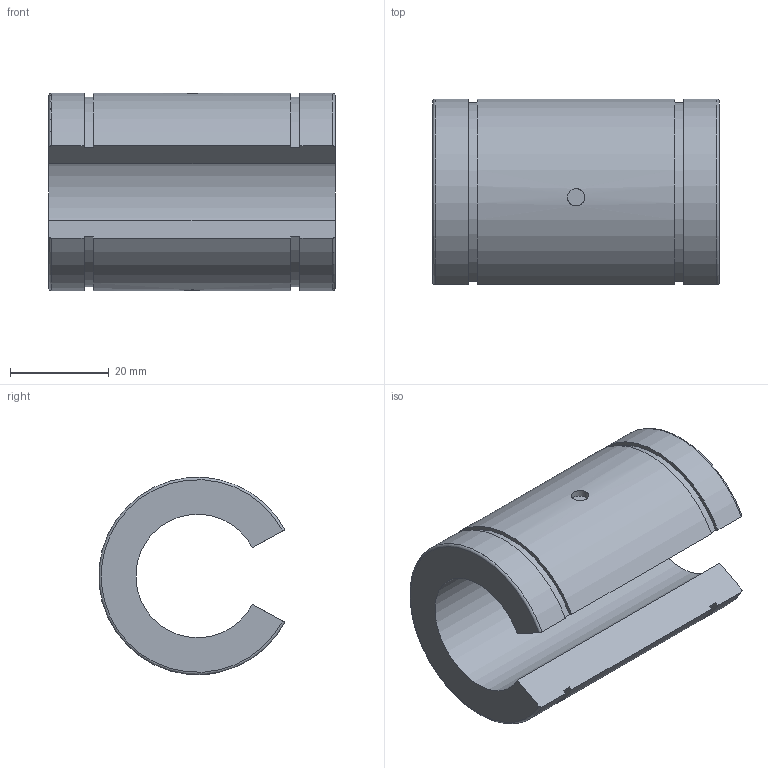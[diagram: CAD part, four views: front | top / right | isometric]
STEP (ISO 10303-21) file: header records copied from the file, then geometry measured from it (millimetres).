
FILE_DESCRIPTION(('STEP AP203'),'1');
FILE_NAME('//192.168.1.1/share/s-4 技術開発/s-4-4_CAD/s-4-4-3_見直し済み/007 修正済み/SB-OP/SB-25OP.step','2022-02-17T01:42:57',(' '),(' '),'Spatial InterOp 3D',' ',' ');
FILE_SCHEMA(('CONFIG_CONTROL_DESIGN'));
Length unit declared in the file: millimetre
Products named in the file (1): 1
Bounding box: 58 x 37.62 x 40 mm (x, y, z)
Volume: 37270.2 mm3; surface area: 12465.2 mm2
Topology: 1 solids, 1 shells, 20 faces, 49 edges, 33 vertices
Faces by surface type: plane 10, cylinder 8, torus 2
Full cylindrical faces by diameter (mm): 3 x1, 3.5 x1
Entity records: 732 total; most frequent: CARTESIAN_POINT 221, DIRECTION 98, ORIENTED_EDGE 92, EDGE_CURVE 46, AXIS2_PLACEMENT_3D 37, VERTEX_POINT 32, EDGE_LOOP 24, LINE 24
